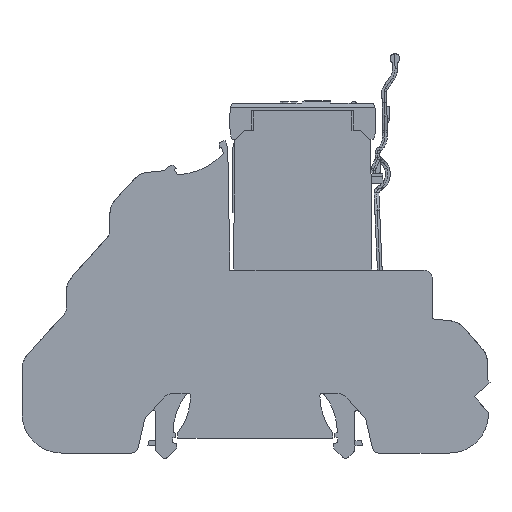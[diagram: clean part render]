
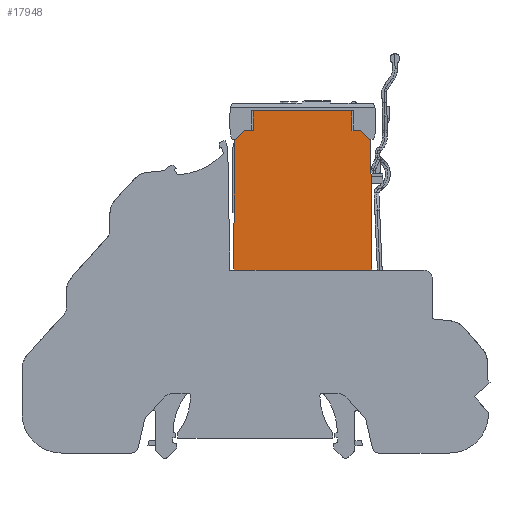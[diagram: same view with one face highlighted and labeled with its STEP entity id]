
A CAD part, left-side view. The second image highlights one B-rep face of the part: STEP entity #17948.
In plain terms, the highlighted planar face has unit normal (-1, 0, 0).
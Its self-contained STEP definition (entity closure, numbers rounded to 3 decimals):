
#404 = CARTESIAN_POINT ( 'NONE',  ( 0.95, 28.839, 68.455 ) ) ;
#696 = LINE ( 'NONE', #14048, #26689 ) ;
#1825 = VERTEX_POINT ( 'NONE', #41434 ) ;
#2737 = VECTOR ( 'NONE', #33922, 1000. ) ;
#3083 = CARTESIAN_POINT ( 'NONE',  ( 0.95, 28.839, 68.455 ) ) ;
#3187 = LINE ( 'NONE', #16364, #40898 ) ;
#3192 = ORIENTED_EDGE ( 'NONE', *, *, #30205, .F. ) ;
#3378 = CARTESIAN_POINT ( 'NONE',  ( 0.95, 53.535, 40.113 ) ) ;
#3889 = LINE ( 'NONE', #23963, #27949 ) ;
#4516 = CARTESIAN_POINT ( 'NONE',  ( 0.95, 53.17, 66.513 ) ) ;
#4702 = ORIENTED_EDGE ( 'NONE', *, *, #29991, .F. ) ;
#4840 = CARTESIAN_POINT ( 'NONE',  ( 0.95, 24.365, 66.513 ) ) ;
#4864 = VECTOR ( 'NONE', #5482, 1000. ) ;
#5257 = CARTESIAN_POINT ( 'NONE',  ( 0.95, 36.015, 66.513 ) ) ;
#5482 = DIRECTION ( 'NONE',  ( 0., -1., 0. ) ) ;
#6357 = CARTESIAN_POINT ( 'NONE',  ( 0.95, 49.439, 68.482 ) ) ;
#6458 = EDGE_CURVE ( 'NONE', #31092, #17980, #13701, .T. ) ;
#6525 = FACE_OUTER_BOUND ( 'NONE', #38932, .T. ) ;
#7026 = VERTEX_POINT ( 'NONE', #24404 ) ;
#8177 = CARTESIAN_POINT ( 'NONE',  ( 0.95, 25.108, 66.513 ) ) ;
#8266 = VERTEX_POINT ( 'NONE', #8870 ) ;
#8457 = VECTOR ( 'NONE', #34123, 1000. ) ;
#8458 = CARTESIAN_POINT ( 'NONE',  ( 0.95, 24.898, 66.513 ) ) ;
#8870 = CARTESIAN_POINT ( 'NONE',  ( 0.95, 49.439, 72.577 ) ) ;
#9212 = DIRECTION ( 'NONE',  ( 0., 0., 1. ) ) ;
#9367 = EDGE_CURVE ( 'NONE', #18917, #29651, #39493, .T. ) ;
#9383 = VERTEX_POINT ( 'NONE', #30190 ) ;
#9657 = ORIENTED_EDGE ( 'NONE', *, *, #6458, .F. ) ;
#10237 = ORIENTED_EDGE ( 'NONE', *, *, #23311, .F. ) ;
#10369 = CARTESIAN_POINT ( 'NONE',  ( 0.95, 53.535, 39.313 ) ) ;
#10772 = DIRECTION ( 'NONE',  ( 0., -0.006, 1. ) ) ;
#12190 = ORIENTED_EDGE ( 'NONE', *, *, #35065, .T. ) ;
#12609 = ORIENTED_EDGE ( 'NONE', *, *, #40619, .F. ) ;
#12715 = LINE ( 'NONE', #42787, #25939 ) ;
#13480 = DIRECTION ( 'NONE',  ( 0., -0.707, 0.707 ) ) ;
#13547 = CARTESIAN_POINT ( 'NONE',  ( 0.95, 53.535, 40.113 ) ) ;
#13627 = VERTEX_POINT ( 'NONE', #13850 ) ;
#13701 = LINE ( 'NONE', #20185, #43574 ) ;
#13777 = VERTEX_POINT ( 'NONE', #15385 ) ;
#13829 = EDGE_CURVE ( 'NONE', #29651, #13777, #25619, .T. ) ;
#13850 = CARTESIAN_POINT ( 'NONE',  ( 0.95, 24.735, 40.113 ) ) ;
#14048 = CARTESIAN_POINT ( 'NONE',  ( 0.95, 24.745, 40.113 ) ) ;
#14212 = LINE ( 'NONE', #13547, #2737 ) ;
#14658 = ORIENTED_EDGE ( 'NONE', *, *, #21751, .F. ) ;
#15042 = LINE ( 'NONE', #31426, #19539 ) ;
#15252 = LINE ( 'NONE', #42037, #42968 ) ;
#15385 = CARTESIAN_POINT ( 'NONE',  ( 0.95, 25.108, 66.513 ) ) ;
#15626 = VECTOR ( 'NONE', #30132, 1000. ) ;
#16004 = EDGE_CURVE ( 'NONE', #7026, #13627, #696, .T. ) ;
#16053 = EDGE_CURVE ( 'NONE', #31092, #9383, #32181, .T. ) ;
#16306 = EDGE_CURVE ( 'NONE', #17980, #17575, #15252, .T. ) ;
#16364 = CARTESIAN_POINT ( 'NONE',  ( 0.95, 28.839, 72.577 ) ) ;
#16627 = PLANE ( 'NONE',  #18347 ) ;
#16806 = VECTOR ( 'NONE', #28467, 1000. ) ;
#16883 = CARTESIAN_POINT ( 'NONE',  ( 0.95, 53.535, 39.313 ) ) ;
#16903 = VECTOR ( 'NONE', #10772, 1000. ) ;
#16940 = VECTOR ( 'NONE', #32010, 1000. ) ;
#17277 = CARTESIAN_POINT ( 'NONE',  ( 0.95, 36.015, 70.374 ) ) ;
#17500 = CARTESIAN_POINT ( 'NONE',  ( 0.95, 51.2, 68.482 ) ) ;
#17575 = VERTEX_POINT ( 'NONE', #6357 ) ;
#17948 = ADVANCED_FACE ( 'NONE', ( #6525 ), #16627, .F. ) ;
#17980 = VERTEX_POINT ( 'NONE', #17500 ) ;
#18347 = AXIS2_PLACEMENT_3D ( 'NONE', #17277, #20646, #27264 ) ;
#18391 = DIRECTION ( 'NONE',  ( 0., -1., 0. ) ) ;
#18917 = VERTEX_POINT ( 'NONE', #43540 ) ;
#19072 = VERTEX_POINT ( 'NONE', #36670 ) ;
#19539 = VECTOR ( 'NONE', #18391, 1000. ) ;
#20185 = CARTESIAN_POINT ( 'NONE',  ( 0.95, 51.2, 68.482 ) ) ;
#20236 = LINE ( 'NONE', #404, #15626 ) ;
#20359 = VECTOR ( 'NONE', #26733, 1000. ) ;
#20646 = DIRECTION ( 'NONE',  ( 1., 0., 0. ) ) ;
#20953 = CARTESIAN_POINT ( 'NONE',  ( 0.95, 53.524, 40.113 ) ) ;
#21176 = ORIENTED_EDGE ( 'NONE', *, *, #16053, .T. ) ;
#21751 = EDGE_CURVE ( 'NONE', #13627, #19072, #3889, .T. ) ;
#21799 = VERTEX_POINT ( 'NONE', #16883 ) ;
#22279 = LINE ( 'NONE', #4840, #4864 ) ;
#22502 = ORIENTED_EDGE ( 'NONE', *, *, #16004, .F. ) ;
#23311 = EDGE_CURVE ( 'NONE', #25777, #9383, #24041, .T. ) ;
#23625 = ORIENTED_EDGE ( 'NONE', *, *, #16306, .F. ) ;
#23639 = LINE ( 'NONE', #10369, #20359 ) ;
#23963 = CARTESIAN_POINT ( 'NONE',  ( 0.95, 24.735, 40.113 ) ) ;
#24041 = LINE ( 'NONE', #20953, #16903 ) ;
#24404 = CARTESIAN_POINT ( 'NONE',  ( 0.95, 24.745, 40.113 ) ) ;
#25619 = LINE ( 'NONE', #8177, #16940 ) ;
#25656 = ORIENTED_EDGE ( 'NONE', *, *, #42823, .F. ) ;
#25777 = VERTEX_POINT ( 'NONE', #31476 ) ;
#25939 = VECTOR ( 'NONE', #9212, 1000. ) ;
#26000 = ORIENTED_EDGE ( 'NONE', *, *, #31998, .F. ) ;
#26689 = VECTOR ( 'NONE', #34653, 1000. ) ;
#26733 = DIRECTION ( 'NONE',  ( 0., 0., 1. ) ) ;
#27264 = DIRECTION ( 'NONE',  ( 0., 0., -1. ) ) ;
#27278 = LINE ( 'NONE', #40740, #8457 ) ;
#27949 = VECTOR ( 'NONE', #36784, 1000. ) ;
#28467 = DIRECTION ( 'NONE',  ( 0., 1., 0. ) ) ;
#28501 = ORIENTED_EDGE ( 'NONE', *, *, #13829, .F. ) ;
#29651 = VERTEX_POINT ( 'NONE', #41025 ) ;
#29872 = DIRECTION ( 'NONE',  ( 0., -1., 0. ) ) ;
#29991 = EDGE_CURVE ( 'NONE', #37352, #7026, #27278, .T. ) ;
#30132 = DIRECTION ( 'NONE',  ( 0., 0., -1. ) ) ;
#30190 = CARTESIAN_POINT ( 'NONE',  ( 0.95, 53.371, 66.513 ) ) ;
#30205 = EDGE_CURVE ( 'NONE', #8266, #1825, #3187, .T. ) ;
#31092 = VERTEX_POINT ( 'NONE', #4516 ) ;
#31426 = CARTESIAN_POINT ( 'NONE',  ( 0.95, 12.035, 39.313 ) ) ;
#31476 = CARTESIAN_POINT ( 'NONE',  ( 0.95, 53.524, 40.113 ) ) ;
#31998 = EDGE_CURVE ( 'NONE', #17575, #8266, #12715, .T. ) ;
#32010 = DIRECTION ( 'NONE',  ( 0., -0.707, -0.707 ) ) ;
#32181 = LINE ( 'NONE', #5257, #16806 ) ;
#32999 = EDGE_CURVE ( 'NONE', #13777, #37352, #22279, .T. ) ;
#33223 = ORIENTED_EDGE ( 'NONE', *, *, #36788, .F. ) ;
#33299 = DIRECTION ( 'NONE',  ( 0., -1., 0. ) ) ;
#33398 = VERTEX_POINT ( 'NONE', #3378 ) ;
#33922 = DIRECTION ( 'NONE',  ( 0., -1., 0. ) ) ;
#34123 = DIRECTION ( 'NONE',  ( 0., -0.006, -1. ) ) ;
#34653 = DIRECTION ( 'NONE',  ( 0., -1., 0. ) ) ;
#35065 = EDGE_CURVE ( 'NONE', #21799, #19072, #15042, .T. ) ;
#35221 = VECTOR ( 'NONE', #33299, 1000. ) ;
#35881 = ORIENTED_EDGE ( 'NONE', *, *, #32999, .F. ) ;
#36205 = ORIENTED_EDGE ( 'NONE', *, *, #9367, .F. ) ;
#36670 = CARTESIAN_POINT ( 'NONE',  ( 0.95, 24.735, 39.313 ) ) ;
#36784 = DIRECTION ( 'NONE',  ( 0., 0., -1. ) ) ;
#36788 = EDGE_CURVE ( 'NONE', #21799, #33398, #23639, .T. ) ;
#37352 = VERTEX_POINT ( 'NONE', #8458 ) ;
#38495 = DIRECTION ( 'NONE',  ( 0., -1., 0. ) ) ;
#38932 = EDGE_LOOP ( 'NONE', ( #33223, #12190, #14658, #22502, #4702, #35881, #28501, #36205, #12609, #3192, #26000, #23625, #9657, #21176, #10237, #25656 ) ) ;
#39493 = LINE ( 'NONE', #3083, #35221 ) ;
#40619 = EDGE_CURVE ( 'NONE', #1825, #18917, #20236, .T. ) ;
#40740 = CARTESIAN_POINT ( 'NONE',  ( 0.95, 24.899, 66.624 ) ) ;
#40898 = VECTOR ( 'NONE', #29872, 1000. ) ;
#41025 = CARTESIAN_POINT ( 'NONE',  ( 0.95, 27.051, 68.455 ) ) ;
#41434 = CARTESIAN_POINT ( 'NONE',  ( 0.95, 28.839, 72.577 ) ) ;
#42037 = CARTESIAN_POINT ( 'NONE',  ( 0.95, 51.2, 68.482 ) ) ;
#42787 = CARTESIAN_POINT ( 'NONE',  ( 0.95, 49.439, 72.577 ) ) ;
#42823 = EDGE_CURVE ( 'NONE', #33398, #25777, #14212, .T. ) ;
#42968 = VECTOR ( 'NONE', #38495, 1000. ) ;
#43540 = CARTESIAN_POINT ( 'NONE',  ( 0.95, 28.839, 68.455 ) ) ;
#43574 = VECTOR ( 'NONE', #13480, 1000. ) ;
